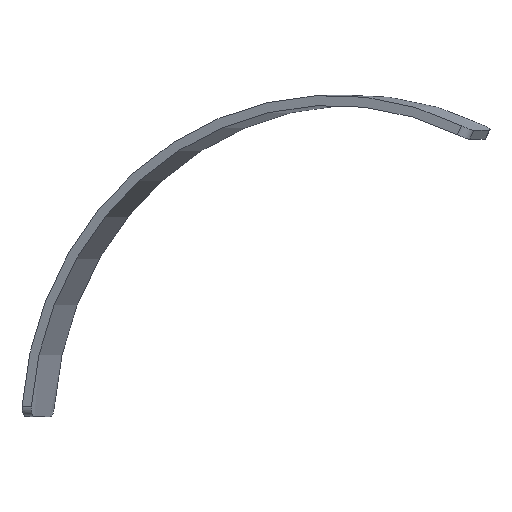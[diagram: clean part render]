
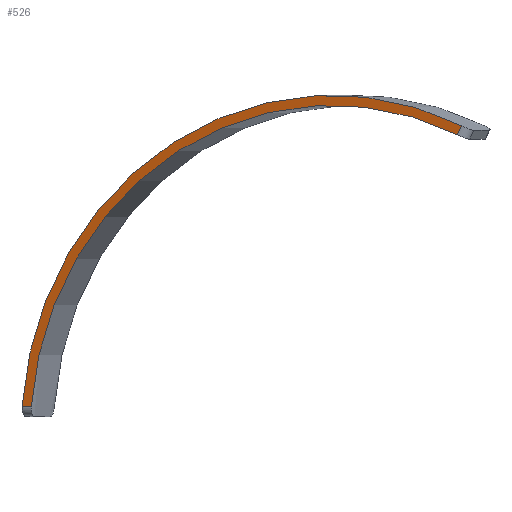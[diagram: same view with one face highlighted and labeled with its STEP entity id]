
A CAD part, front view. The second image highlights one B-rep face of the part: STEP entity #526.
In plain terms, the highlighted planar face has unit normal (-0.383, -0.924, 0).
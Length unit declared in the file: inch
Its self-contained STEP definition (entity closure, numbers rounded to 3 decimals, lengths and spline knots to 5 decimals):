
#3 = CIRCLE ( 'NONE', #589, 32.525 ) ;
#30 = CARTESIAN_POINT ( 'NONE',  ( 108.54761, -48.20907, 0.44335 ) ) ;
#41 = DIRECTION ( 'NONE',  ( 0.41, -0.17, 0.896 ) ) ;
#45 = VERTEX_POINT ( 'NONE', #707 ) ;
#50 = LINE ( 'NONE', #284, #103 ) ;
#95 = VERTEX_POINT ( 'NONE', #347 ) ;
#99 = CARTESIAN_POINT ( 'NONE',  ( 109.37573, -48.55209, 0. ) ) ;
#103 = VECTOR ( 'NONE', #456, 39.37008 ) ;
#105 = DIRECTION ( 'NONE',  ( -0.383, -0.924, 0. ) ) ;
#114 = CIRCLE ( 'NONE', #184, 33.525 ) ;
#160 = ORIENTED_EDGE ( 'NONE', *, *, #497, .T. ) ;
#184 = AXIS2_PLACEMENT_3D ( 'NONE', #349, #628, #238 ) ;
#201 = PLANE ( 'NONE',  #366 ) ;
#227 = VECTOR ( 'NONE', #41, 39.37008 ) ;
#238 = DIRECTION ( 'NONE',  ( 0.924, -0.383, 0. ) ) ;
#240 = CARTESIAN_POINT ( 'NONE',  ( 109.37573, -48.55209, 0. ) ) ;
#284 = CARTESIAN_POINT ( 'NONE',  ( 109.41834, -48.56974, 0.99894 ) ) ;
#318 = FACE_OUTER_BOUND ( 'NONE', #396, .T. ) ;
#331 = ORIENTED_EDGE ( 'NONE', *, *, #655, .T. ) ;
#347 = CARTESIAN_POINT ( 'NONE',  ( 78.492, -35.75963, 2.54437 ) ) ;
#349 = CARTESIAN_POINT ( 'NONE',  ( 109.37573, -48.55209, 0. ) ) ;
#366 = AXIS2_PLACEMENT_3D ( 'NONE', #99, #433, #671 ) ;
#391 = ORIENTED_EDGE ( 'NONE', *, *, #577, .T. ) ;
#396 = EDGE_LOOP ( 'NONE', ( #391, #331, #687, #160 ) ) ;
#433 = DIRECTION ( 'NONE',  ( 0.383, 0.924, 0. ) ) ;
#456 = DIRECTION ( 'NONE',  ( 0.923, -0.382, -0.046 ) ) ;
#497 = EDGE_CURVE ( 'NONE', #622, #45, #512, .T. ) ;
#506 = VERTEX_POINT ( 'NONE', #564 ) ;
#512 = LINE ( 'NONE', #30, #227 ) ;
#526 = ADVANCED_FACE ( 'NONE', ( #318 ), #201, .F. ) ;
#564 = CARTESIAN_POINT ( 'NONE',  ( 79.41532, -36.14208, 2.49823 ) ) ;
#571 = DIRECTION ( 'NONE',  ( 0.924, -0.383, 0. ) ) ;
#577 = EDGE_CURVE ( 'NONE', #45, #95, #114, .T. ) ;
#583 = CARTESIAN_POINT ( 'NONE',  ( 121.86354, -53.72471, 29.58335 ) ) ;
#589 = AXIS2_PLACEMENT_3D ( 'NONE', #240, #105, #571 ) ;
#622 = VERTEX_POINT ( 'NONE', #583 ) ;
#628 = DIRECTION ( 'NONE',  ( -0.383, -0.924, 0. ) ) ;
#635 = EDGE_CURVE ( 'NONE', #622, #506, #3, .T. ) ;
#655 = EDGE_CURVE ( 'NONE', #95, #506, #50, .T. ) ;
#671 = DIRECTION ( 'NONE',  ( -0.924, 0.383, 0. ) ) ;
#687 = ORIENTED_EDGE ( 'NONE', *, *, #635, .F. ) ;
#707 = CARTESIAN_POINT ( 'NONE',  ( 122.27332, -53.89445, 30.48011 ) ) ;
